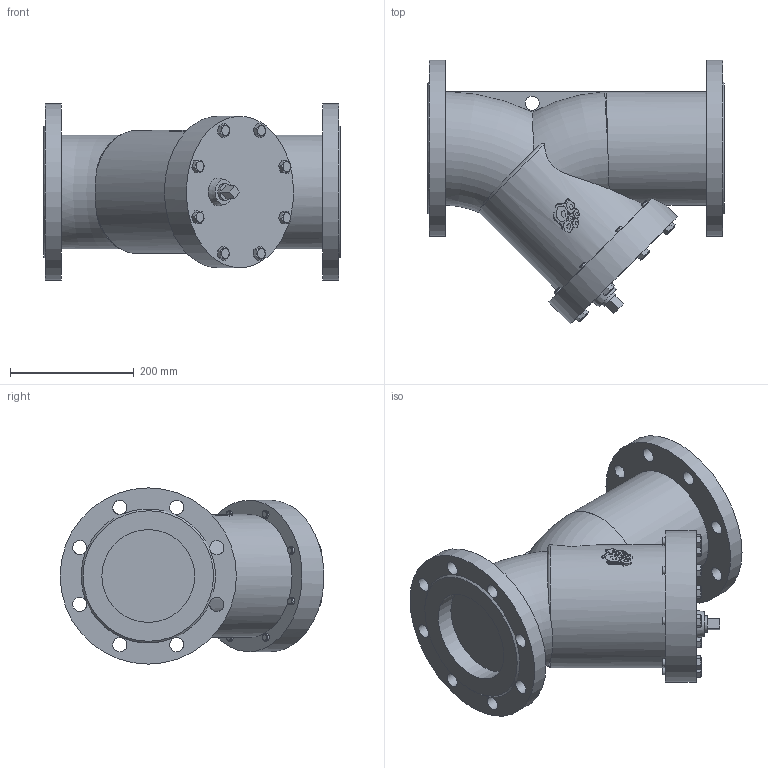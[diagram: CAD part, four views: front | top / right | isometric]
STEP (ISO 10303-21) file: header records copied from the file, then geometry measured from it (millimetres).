
FILE_DESCRIPTION(('STEP AP203'), '1');
FILE_NAME('3D_600_601-150-16_1,6', '', ('UNSPECIFIED'), ('UNSPECIFIED'), 'C3D Converter', 'C3D Toolkit', '');
FILE_SCHEMA(('CONFIG_CONTROL_DESIGN'));
Length unit declared in the file: millimetre
Bounding box: 480 x 426.32 x 285 mm (x, y, z)
Volume: 19276402.7 mm3; surface area: 688502.6 mm2
Topology: 1 solids, 1 shells, 989 faces, 2921 edges, 1965 vertices
Faces by surface type: plane 915, cylinder 41, cone 19, torus 14
Full cylindrical faces by diameter (mm): 12 x8, 23 x17, 27 x1, 150 x2, 245 x1, 285 x2
Entity records: 43901 total; most frequent: CARTESIAN_POINT 11825, ORIENTED_EDGE 5726, DIRECTION 4204, EDGE_CURVE 2863, VERTEX_POINT 1965, LINE 1762, VECTOR 1762, AXIS2_PLACEMENT_3D 1221
